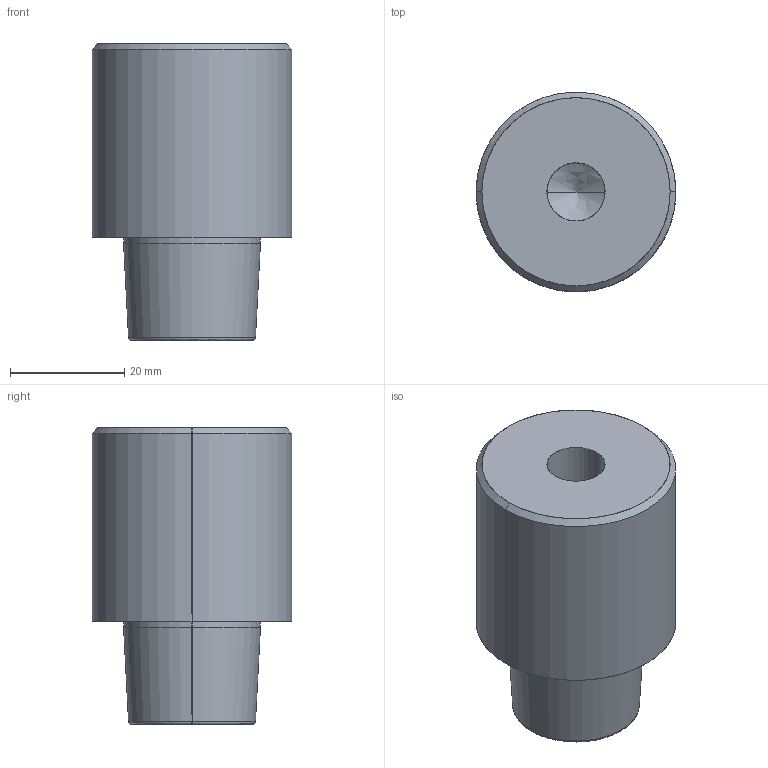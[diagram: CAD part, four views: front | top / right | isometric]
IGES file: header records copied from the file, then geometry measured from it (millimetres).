
Start section: SolidWorks IGES file using analytic representation for surfaces
Global section: file name: D:\Current\W1\TPNV\TPNV35-3\TPNVP35-3.IGS; native system: SolidWorks 2017; preprocessor: SolidWorks 2017; author: Ravi Kalvai; date: 240530.101148; units: millimetre
Bounding box: 35 x 35 x 52 mm (x, y, z)
Surface area: 7677 mm2 (no closed solid volume)
Topology: 0 solids, 0 shells, 17 faces, 280 edges, 278 vertices
Faces by surface type: revolution 12, bspline 5
